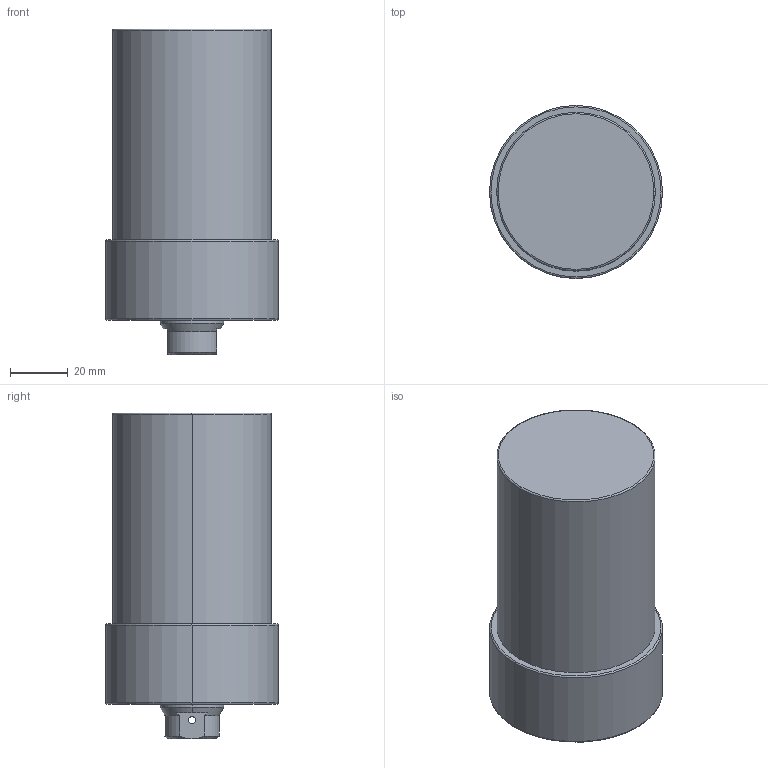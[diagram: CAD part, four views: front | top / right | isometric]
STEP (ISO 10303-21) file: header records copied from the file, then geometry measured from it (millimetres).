
FILE_DESCRIPTION (( 'STEP AP203' ), '1' );
FILE_NAME ('CLLU055-CB-060.STEP', '2017-05-12T11:24:35', ( '' ), ( '' ), 'SwSTEP 2.0', 'SolidWorks 2015', '' );
FILE_SCHEMA (( 'CONFIG_CONTROL_DESIGN' ));
Length unit declared in the file: millimetre
Products named in the file (1): CLLU055-CB-060
Bounding box: 60 x 60 x 113 mm (x, y, z)
Volume: 252894.4 mm3; surface area: 25984.6 mm2
Topology: 1 solids, 1 shells, 66 faces, 152 edges, 85 vertices
Faces by surface type: cylinder 26, cone 24, plane 10, torus 6
Entity records: 1971 total; most frequent: CARTESIAN_POINT 414, DIRECTION 340, ORIENTED_EDGE 284, AXIS2_PLACEMENT_3D 143, EDGE_CURVE 142, VERTEX_POINT 85, EDGE_LOOP 77, CIRCLE 76
